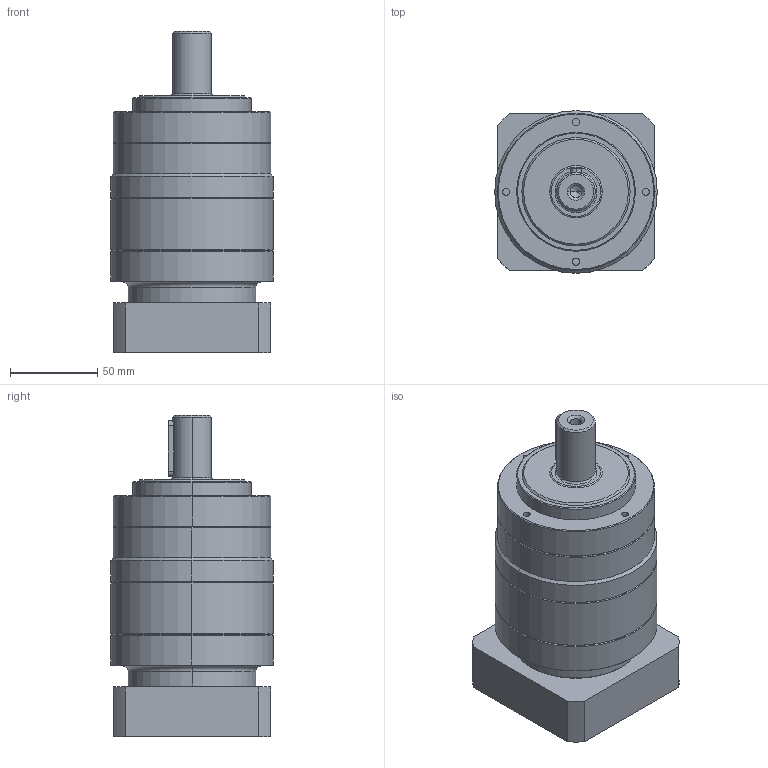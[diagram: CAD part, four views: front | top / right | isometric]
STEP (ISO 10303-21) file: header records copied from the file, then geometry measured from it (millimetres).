
FILE_DESCRIPTION (( 'STEP AP214' ), '1' );
FILE_NAME ('VRL-090-L2-S2-P1 19-70-90-M6.STEP', '2023-05-26T00:41:05', ( '微软用户' ), ( '微软中国' ), 'SwSTEP 2.0', 'SolidWorks 2018', '' );
FILE_SCHEMA (( 'AUTOMOTIVE_DESIGN' ));
Length unit declared in the file: millimetre
Products named in the file (1): VRL-090-L2-S2-P1 19-70-90-M6
Bounding box: 93 x 93 x 184 mm (x, y, z)
Volume: 903879.3 mm3; surface area: 79215.2 mm2
Topology: 1 solids, 1 shells, 115 faces, 245 edges, 149 vertices
Faces by surface type: cylinder 49, cone 30, plane 30, torus 6
Entity records: 3211 total; most frequent: DIRECTION 605, CARTESIAN_POINT 571, ORIENTED_EDGE 486, AXIS2_PLACEMENT_3D 249, EDGE_CURVE 243, VERTEX_POINT 149, EDGE_LOOP 134, CIRCLE 133
